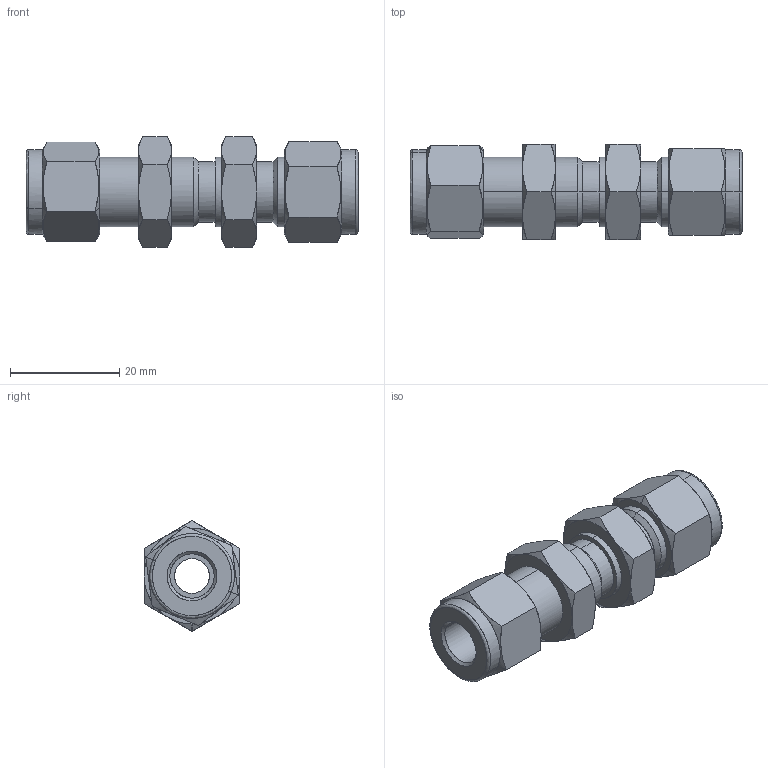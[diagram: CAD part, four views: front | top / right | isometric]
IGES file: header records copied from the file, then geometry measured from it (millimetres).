
Start section: Comment
Global section: file name: SBHU-5.igs; native system:  By UGS Corp.; preprocessor: XPlus GENERIC/IGES 3.0; author: Author; organization: Title; date: 20100528.112438; units: millimetre
Bounding box: 60.7 x 17.5 x 20.21 mm (x, y, z)
Surface area: 7166.3 mm2 (no closed solid volume)
Topology: 0 solids, 0 shells, 135 faces, 572 edges, 572 vertices
Faces by surface type: bspline 135
